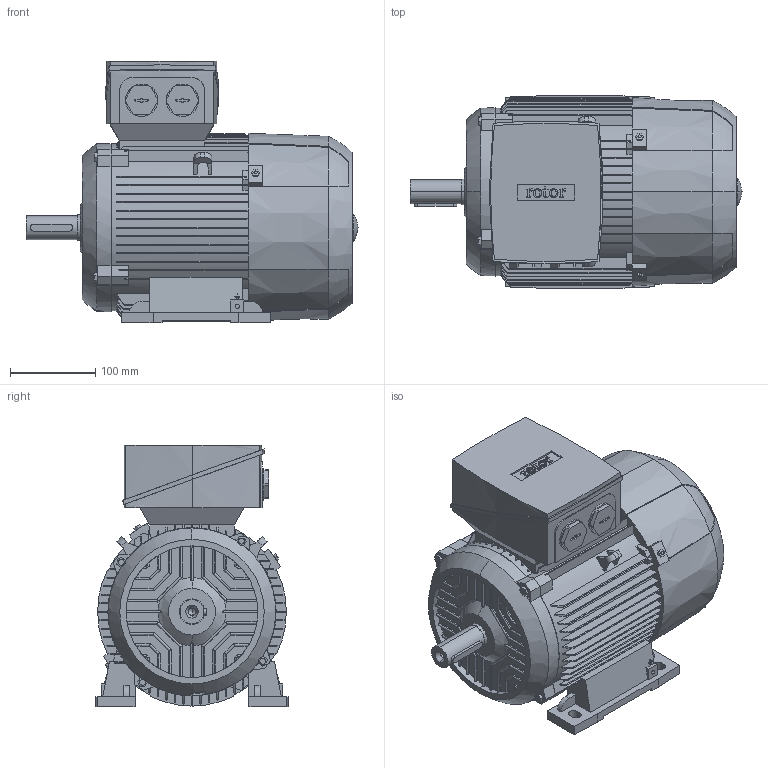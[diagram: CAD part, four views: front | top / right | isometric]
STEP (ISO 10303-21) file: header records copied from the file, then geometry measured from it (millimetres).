
FILE_DESCRIPTION (( 'STEP AP214' ), '1' );
FILE_NAME ('6RN112M04E12 IM1041.STEP', '2016-12-29T09:33:52', ( 'rbc_ict' ), ( 'Microsoft' ), 'SwSTEP 2.0', 'SolidWorks 2015', '' );
FILE_SCHEMA (( 'AUTOMOTIVE_DESIGN' ));
Length unit declared in the file: millimetre
Products named in the file (1): 6RN112M04E12 IM1041
Bounding box: 390.5 x 226 x 308 mm (x, y, z)
Volume: 12677487.2 mm3; surface area: 561962 mm2
Topology: 1 solids, 1 shells, 1215 faces, 3459 edges, 2278 vertices
Faces by surface type: plane 762, cylinder 242, bspline 172, cone 39
Entity records: 57882 total; most frequent: CARTESIAN_POINT 15972, ORIENTED_EDGE 6910, DIRECTION 5132, EDGE_CURVE 3455, VERTEX_POINT 2278, LINE 2056, VECTOR 2056, AXIS2_PLACEMENT_3D 1538
